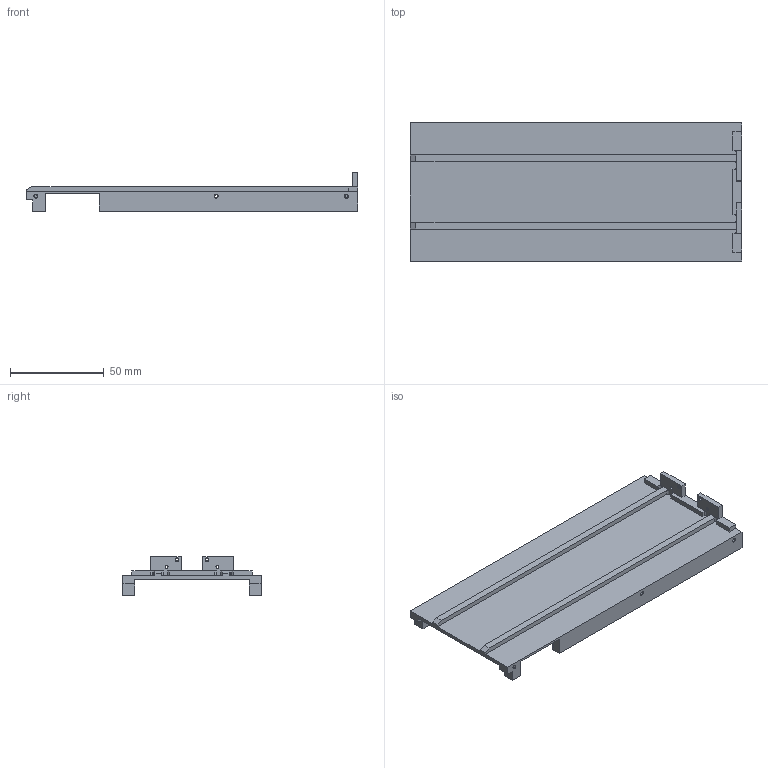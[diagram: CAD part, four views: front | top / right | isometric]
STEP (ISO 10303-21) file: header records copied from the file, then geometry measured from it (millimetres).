
FILE_DESCRIPTION (( 'STEP AP203' ), '1' );
FILE_NAME ('干扰枪-电池滑轨.STEP', '2026-09-24T09:04:10', ( '' ), ( '' ), 'SwSTEP 2.0', 'SolidWorks 2016', '' );
FILE_SCHEMA (( 'CONFIG_CONTROL_DESIGN' ));
Length unit declared in the file: millimetre
Products named in the file (1): 干扰枪-电池滑轨
Bounding box: 176.9 x 73.8 x 20.5 mm (x, y, z)
Volume: 25921.1 mm3; surface area: 36264.5 mm2
Topology: 1 solids, 1 shells, 180 faces, 462 edges, 296 vertices
Faces by surface type: plane 78, cylinder 66, cone 36
Entity records: 5625 total; most frequent: CARTESIAN_POINT 1003, DIRECTION 990, ORIENTED_EDGE 924, EDGE_CURVE 462, AXIS2_PLACEMENT_3D 351, VERTEX_POINT 296, VECTOR 288, LINE 288
